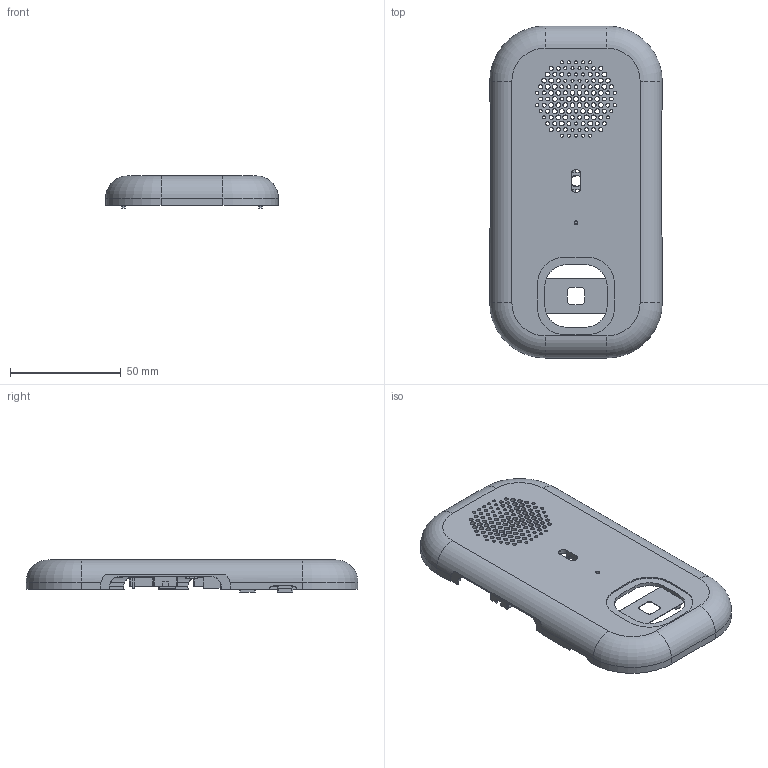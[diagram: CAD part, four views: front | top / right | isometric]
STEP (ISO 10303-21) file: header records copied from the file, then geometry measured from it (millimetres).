
FILE_DESCRIPTION(('Open CASCADE Model'),'2;1');
FILE_NAME('C27_R2_01_Front_Shell_Chalk_Centered_Mic', '2026-09-09T17:52:52',('Author'),('Open CASCADE'), 'Open CASCADE STEP processor 7.9','build123d','Unknown');
FILE_SCHEMA(('AUTOMOTIVE_DESIGN { 1 0 10303 214 1 1 1 1 }'));
Length unit declared in the file: millimetre
Products named in the file (1): C27_R2_01_Front_Shell_Chalk_Centered_Mic
Bounding box: 78 x 150 x 14.51 mm (x, y, z)
Volume: 32743.3 mm3; surface area: 36611.3 mm2
Topology: 1 solids, 1 shells, 936 faces, 2712 edges, 1792 vertices
Faces by surface type: cylinder 468, plane 460, torus 8
Full cylindrical faces by diameter (mm): 1.4 x32, 1.7 x14, 1.8 x49, 2.1 x4, 2.2 x42, 3 x3, 4.2 x4, 5.1 x4, 5.3 x1, 5.5 x1
Entity records: 72468 total; most frequent: CARTESIAN_POINT 19129, DIRECTION 9905, LINE 5459, VECTOR 5459, ORIENTED_EDGE 5424, PCURVE 5424, DEFINITIONAL_REPRESENTATION 5424, EDGE_CURVE 2712
